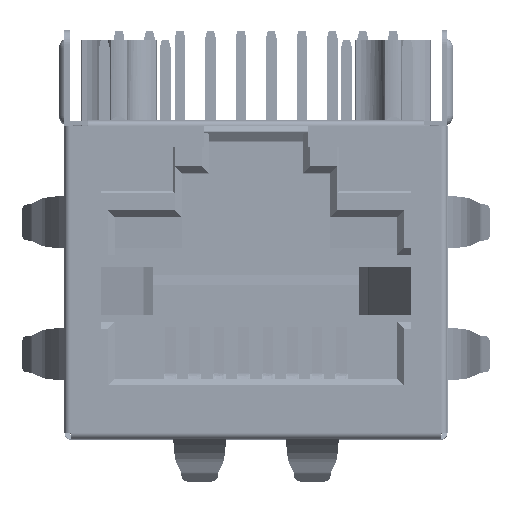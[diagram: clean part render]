
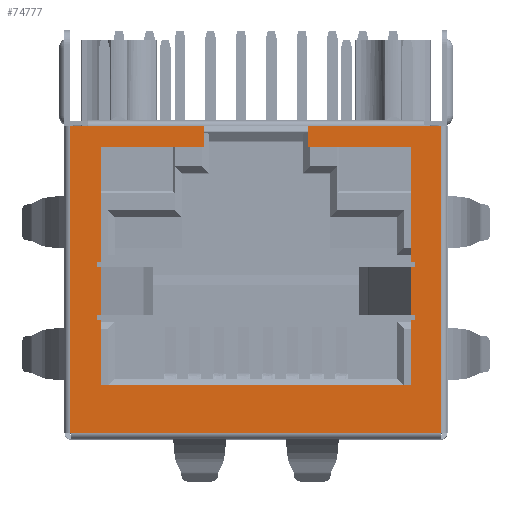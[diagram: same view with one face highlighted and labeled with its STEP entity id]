
A CAD part, top view. The second image highlights one B-rep face of the part: STEP entity #74777.
In plain terms, the highlighted planar face has unit normal (0, 0, 1).
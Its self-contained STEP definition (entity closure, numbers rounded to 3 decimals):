
#68437=DIRECTION('',(0.,-1.,0.));
#68438=VECTOR('',#68437,12.8);
#68439=CARTESIAN_POINT('',(-7.75,0.15,0.3));
#68440=LINE('',#68439,#68438);
#68458=DIRECTION('',(-1.,0.,0.));
#68459=VECTOR('',#68458,0.75);
#68460=CARTESIAN_POINT('',(-7.,0.15,0.3));
#68461=LINE('',#68460,#68459);
#68992=DIRECTION('',(0.,-1.,0.));
#68993=VECTOR('',#68992,0.2);
#68994=CARTESIAN_POINT('',(-6.645,-5.53,0.3));
#68995=LINE('',#68994,#68993);
#68996=DIRECTION('',(-1.,0.,0.));
#68997=VECTOR('',#68996,0.171);
#68998=CARTESIAN_POINT('',(-6.474,-7.73,0.3));
#68999=LINE('',#68998,#68997);
#69000=DIRECTION('',(1.,0.,0.));
#69001=VECTOR('',#69000,0.195);
#69002=CARTESIAN_POINT('',(-6.645,-7.93,0.3));
#69003=LINE('',#69002,#69001);
#69004=DIRECTION('',(0.,1.,0.));
#69005=VECTOR('',#69004,0.2);
#69006=CARTESIAN_POINT('',(6.645,-7.93,0.3));
#69007=LINE('',#69006,#69005);
#69008=DIRECTION('',(0.,1.,0.));
#69009=VECTOR('',#69008,2.);
#69010=CARTESIAN_POINT('',(6.474,-7.73,0.3));
#69011=LINE('',#69010,#69009);
#69012=DIRECTION('',(1.,0.,0.));
#69013=VECTOR('',#69012,0.171);
#69014=CARTESIAN_POINT('',(6.474,-5.73,0.3));
#69015=LINE('',#69014,#69013);
#69016=DIRECTION('',(-1.,0.,0.));
#69017=VECTOR('',#69016,0.195);
#69018=CARTESIAN_POINT('',(6.645,-5.53,0.3));
#69019=LINE('',#69018,#69017);
#69020=DIRECTION('',(1.,0.,0.));
#69021=VECTOR('',#69020,0.72);
#69022=CARTESIAN_POINT('',(7.,0.15,0.3));
#69023=LINE('',#69022,#69021);
#69024=DIRECTION('',(-1.,0.,0.));
#69025=VECTOR('',#69024,0.03);
#69026=CARTESIAN_POINT('',(-7.72,-12.65,0.3));
#69027=LINE('',#69026,#69025);
#69028=DIRECTION('',(-1.,0.,0.));
#69029=VECTOR('',#69028,4.85);
#69030=CARTESIAN_POINT('',(7.,0.15,0.3));
#69031=LINE('',#69030,#69029);
#69036=DIRECTION('',(-1.,0.,0.));
#69037=VECTOR('',#69036,4.85);
#69038=CARTESIAN_POINT('',(-2.15,0.15,0.3));
#69039=LINE('',#69038,#69037);
#69120=DIRECTION('',(0.,-1.,0.));
#69121=VECTOR('',#69120,0.85);
#69122=CARTESIAN_POINT('',(2.15,0.15,0.3));
#69123=LINE('',#69122,#69121);
#69128=DIRECTION('',(1.,0.,0.));
#69129=VECTOR('',#69128,4.3);
#69130=CARTESIAN_POINT('',(2.15,-0.7,0.3));
#69131=LINE('',#69130,#69129);
#69136=DIRECTION('',(0.,-1.,0.));
#69137=VECTOR('',#69136,4.83);
#69138=CARTESIAN_POINT('',(6.45,-0.7,0.3));
#69139=LINE('',#69138,#69137);
#69148=DIRECTION('',(0.,-1.,0.));
#69149=VECTOR('',#69148,0.2);
#69150=CARTESIAN_POINT('',(6.645,-5.53,0.3));
#69151=LINE('',#69150,#69149);
#69156=DIRECTION('',(0.,1.,0.));
#69157=VECTOR('',#69156,0.85);
#69158=CARTESIAN_POINT('',(-2.15,-0.7,0.3));
#69159=LINE('',#69158,#69157);
#69164=DIRECTION('',(1.,0.,0.));
#69165=VECTOR('',#69164,4.3);
#69166=CARTESIAN_POINT('',(-6.45,-0.7,0.3));
#69167=LINE('',#69166,#69165);
#69180=DIRECTION('',(0.,1.,0.));
#69181=VECTOR('',#69180,4.83);
#69182=CARTESIAN_POINT('',(-6.45,-5.53,0.3));
#69183=LINE('',#69182,#69181);
#69184=DIRECTION('',(1.,0.,0.));
#69185=VECTOR('',#69184,0.195);
#69186=CARTESIAN_POINT('',(-6.645,-5.53,0.3));
#69187=LINE('',#69186,#69185);
#69230=DIRECTION('',(-1.,0.,0.));
#69231=VECTOR('',#69230,0.171);
#69232=CARTESIAN_POINT('',(-6.474,-5.73,0.3));
#69233=LINE('',#69232,#69231);
#69272=DIRECTION('',(0.,1.,0.));
#69273=VECTOR('',#69272,2.);
#69274=CARTESIAN_POINT('',(-6.474,-7.73,0.3));
#69275=LINE('',#69274,#69273);
#69304=DIRECTION('',(0.,1.,0.));
#69305=VECTOR('',#69304,0.2);
#69306=CARTESIAN_POINT('',(-6.645,-7.93,0.3));
#69307=LINE('',#69306,#69305);
#69320=DIRECTION('',(0.,1.,0.));
#69321=VECTOR('',#69320,2.72);
#69322=CARTESIAN_POINT('',(-6.45,-10.65,0.3));
#69323=LINE('',#69322,#69321);
#69324=DIRECTION('',(-1.,0.,0.));
#69325=VECTOR('',#69324,12.9);
#69326=CARTESIAN_POINT('',(6.45,-10.65,0.3));
#69327=LINE('',#69326,#69325);
#69336=DIRECTION('',(0.,-1.,0.));
#69337=VECTOR('',#69336,2.72);
#69338=CARTESIAN_POINT('',(6.45,-7.93,0.3));
#69339=LINE('',#69338,#69337);
#69348=DIRECTION('',(-1.,0.,0.));
#69349=VECTOR('',#69348,0.195);
#69350=CARTESIAN_POINT('',(6.645,-7.93,0.3));
#69351=LINE('',#69350,#69349);
#69390=DIRECTION('',(1.,0.,0.));
#69391=VECTOR('',#69390,0.171);
#69392=CARTESIAN_POINT('',(6.474,-7.73,0.3));
#69393=LINE('',#69392,#69391);
#69846=DIRECTION('',(0.,1.,0.));
#69847=VECTOR('',#69846,12.8);
#69848=CARTESIAN_POINT('',(7.72,-12.65,0.3));
#69849=LINE('',#69848,#69847);
#70365=DIRECTION('',(1.,0.,0.));
#70366=VECTOR('',#70365,15.44);
#70367=CARTESIAN_POINT('',(-7.72,-12.65,0.3));
#70368=LINE('',#70367,#70366);
#72552=CARTESIAN_POINT('',(-7.75,-12.65,0.3));
#72553=VERTEX_POINT('',#72552);
#72554=CARTESIAN_POINT('',(-7.72,-12.65,0.3));
#72555=VERTEX_POINT('',#72554);
#72560=CARTESIAN_POINT('',(-7.75,0.15,0.3));
#72561=VERTEX_POINT('',#72560);
#72568=CARTESIAN_POINT('',(-7.,0.15,0.3));
#72569=VERTEX_POINT('',#72568);
#72727=CARTESIAN_POINT('',(6.474,-5.73,0.3));
#72729=VERTEX_POINT('',#72727);
#72741=CARTESIAN_POINT('',(6.645,-5.73,0.3));
#72742=VERTEX_POINT('',#72741);
#72743=CARTESIAN_POINT('',(6.474,-7.73,0.3));
#72744=VERTEX_POINT('',#72743);
#72747=CARTESIAN_POINT('',(-2.15,0.15,0.3));
#72748=VERTEX_POINT('',#72747);
#72749=CARTESIAN_POINT('',(-2.15,-0.7,0.3));
#72750=VERTEX_POINT('',#72749);
#72751=CARTESIAN_POINT('',(-6.45,-0.7,0.3));
#72752=VERTEX_POINT('',#72751);
#72753=CARTESIAN_POINT('',(-6.45,-5.53,0.3));
#72754=VERTEX_POINT('',#72753);
#72755=CARTESIAN_POINT('',(-6.645,-5.53,0.3));
#72756=VERTEX_POINT('',#72755);
#72757=CARTESIAN_POINT('',(-6.645,-5.73,0.3));
#72758=VERTEX_POINT('',#72757);
#72759=CARTESIAN_POINT('',(-6.474,-5.73,0.3));
#72760=VERTEX_POINT('',#72759);
#72761=CARTESIAN_POINT('',(-6.474,-7.73,0.3));
#72762=VERTEX_POINT('',#72761);
#72763=CARTESIAN_POINT('',(-6.645,-7.73,0.3));
#72764=VERTEX_POINT('',#72763);
#72765=CARTESIAN_POINT('',(-6.645,-7.93,0.3));
#72766=VERTEX_POINT('',#72765);
#72767=CARTESIAN_POINT('',(-6.45,-7.93,0.3));
#72768=VERTEX_POINT('',#72767);
#72769=CARTESIAN_POINT('',(-6.45,-10.65,0.3));
#72770=VERTEX_POINT('',#72769);
#72771=CARTESIAN_POINT('',(6.45,-10.65,0.3));
#72772=VERTEX_POINT('',#72771);
#72773=CARTESIAN_POINT('',(6.45,-7.93,0.3));
#72774=VERTEX_POINT('',#72773);
#72775=CARTESIAN_POINT('',(6.645,-7.93,0.3));
#72776=VERTEX_POINT('',#72775);
#72777=CARTESIAN_POINT('',(6.645,-7.73,0.3));
#72778=VERTEX_POINT('',#72777);
#72779=CARTESIAN_POINT('',(6.645,-5.53,0.3));
#72780=VERTEX_POINT('',#72779);
#72781=CARTESIAN_POINT('',(6.45,-5.53,0.3));
#72782=VERTEX_POINT('',#72781);
#72783=CARTESIAN_POINT('',(6.45,-0.7,0.3));
#72784=VERTEX_POINT('',#72783);
#72785=CARTESIAN_POINT('',(2.15,-0.7,0.3));
#72786=VERTEX_POINT('',#72785);
#72787=CARTESIAN_POINT('',(2.15,0.15,0.3));
#72788=VERTEX_POINT('',#72787);
#72789=CARTESIAN_POINT('',(7.,0.15,0.3));
#72790=VERTEX_POINT('',#72789);
#72791=CARTESIAN_POINT('',(7.72,0.15,0.3));
#72792=VERTEX_POINT('',#72791);
#72793=CARTESIAN_POINT('',(7.72,-12.65,0.3));
#72794=VERTEX_POINT('',#72793);
#74713=CARTESIAN_POINT('',(7.97,-12.9,0.3));
#74714=DIRECTION('',(0.,0.,-1.));
#74715=DIRECTION('',(-1.,0.,0.));
#74716=AXIS2_PLACEMENT_3D('',#74713,#74714,#74715);
#74717=PLANE('',#74716);
#74718=ORIENTED_EDGE('',*,*,#74065,.F.);
#74719=ORIENTED_EDGE('',*,*,#74085,.F.);
#74721=ORIENTED_EDGE('',*,*,#74720,.F.);
#74723=ORIENTED_EDGE('',*,*,#74722,.F.);
#74725=ORIENTED_EDGE('',*,*,#74724,.F.);
#74727=ORIENTED_EDGE('',*,*,#74726,.F.);
#74729=ORIENTED_EDGE('',*,*,#74728,.F.);
#74731=ORIENTED_EDGE('',*,*,#74730,.T.);
#74733=ORIENTED_EDGE('',*,*,#74732,.F.);
#74735=ORIENTED_EDGE('',*,*,#74734,.F.);
#74737=ORIENTED_EDGE('',*,*,#74736,.T.);
#74739=ORIENTED_EDGE('',*,*,#74738,.F.);
#74741=ORIENTED_EDGE('',*,*,#74740,.T.);
#74743=ORIENTED_EDGE('',*,*,#74742,.F.);
#74745=ORIENTED_EDGE('',*,*,#74744,.F.);
#74747=ORIENTED_EDGE('',*,*,#74746,.F.);
#74749=ORIENTED_EDGE('',*,*,#74748,.F.);
#74751=ORIENTED_EDGE('',*,*,#74750,.T.);
#74753=ORIENTED_EDGE('',*,*,#74752,.F.);
#74754=ORIENTED_EDGE('',*,*,#74704,.T.);
#74755=ORIENTED_EDGE('',*,*,#74693,.T.);
#74757=ORIENTED_EDGE('',*,*,#74756,.F.);
#74759=ORIENTED_EDGE('',*,*,#74758,.T.);
#74761=ORIENTED_EDGE('',*,*,#74760,.F.);
#74763=ORIENTED_EDGE('',*,*,#74762,.F.);
#74765=ORIENTED_EDGE('',*,*,#74764,.F.);
#74767=ORIENTED_EDGE('',*,*,#74766,.F.);
#74769=ORIENTED_EDGE('',*,*,#74768,.T.);
#74771=ORIENTED_EDGE('',*,*,#74770,.F.);
#74773=ORIENTED_EDGE('',*,*,#74772,.F.);
#74774=ORIENTED_EDGE('',*,*,#74043,.T.);
#74775=EDGE_LOOP('',(#74718,#74719,#74721,#74723,#74725,#74727,#74729,#74731,
#74733,#74735,#74737,#74739,#74741,#74743,#74745,#74747,#74749,#74751,#74753,
#74754,#74755,#74757,#74759,#74761,#74763,#74765,#74767,#74769,#74771,#74773,
#74774));
#74776=FACE_OUTER_BOUND('',#74775,.F.);
#74777=ADVANCED_FACE('',(#74776),#74717,.F.);
#74043=EDGE_CURVE('',#72555,#72553,#69027,.T.);
#74065=EDGE_CURVE('',#72561,#72553,#68440,.T.);
#74085=EDGE_CURVE('',#72569,#72561,#68461,.T.);
#74693=EDGE_CURVE('',#72729,#72742,#69015,.T.);
#74704=EDGE_CURVE('',#72744,#72729,#69011,.T.);
#74720=EDGE_CURVE('',#72748,#72569,#69039,.T.);
#74722=EDGE_CURVE('',#72750,#72748,#69159,.T.);
#74724=EDGE_CURVE('',#72752,#72750,#69167,.T.);
#74726=EDGE_CURVE('',#72754,#72752,#69183,.T.);
#74728=EDGE_CURVE('',#72756,#72754,#69187,.T.);
#74730=EDGE_CURVE('',#72756,#72758,#68995,.T.);
#74732=EDGE_CURVE('',#72760,#72758,#69233,.T.);
#74734=EDGE_CURVE('',#72762,#72760,#69275,.T.);
#74736=EDGE_CURVE('',#72762,#72764,#68999,.T.);
#74738=EDGE_CURVE('',#72766,#72764,#69307,.T.);
#74740=EDGE_CURVE('',#72766,#72768,#69003,.T.);
#74742=EDGE_CURVE('',#72770,#72768,#69323,.T.);
#74744=EDGE_CURVE('',#72772,#72770,#69327,.T.);
#74746=EDGE_CURVE('',#72774,#72772,#69339,.T.);
#74748=EDGE_CURVE('',#72776,#72774,#69351,.T.);
#74750=EDGE_CURVE('',#72776,#72778,#69007,.T.);
#74752=EDGE_CURVE('',#72744,#72778,#69393,.T.);
#74756=EDGE_CURVE('',#72780,#72742,#69151,.T.);
#74758=EDGE_CURVE('',#72780,#72782,#69019,.T.);
#74760=EDGE_CURVE('',#72784,#72782,#69139,.T.);
#74762=EDGE_CURVE('',#72786,#72784,#69131,.T.);
#74764=EDGE_CURVE('',#72788,#72786,#69123,.T.);
#74766=EDGE_CURVE('',#72790,#72788,#69031,.T.);
#74768=EDGE_CURVE('',#72790,#72792,#69023,.T.);
#74770=EDGE_CURVE('',#72794,#72792,#69849,.T.);
#74772=EDGE_CURVE('',#72555,#72794,#70368,.T.);
